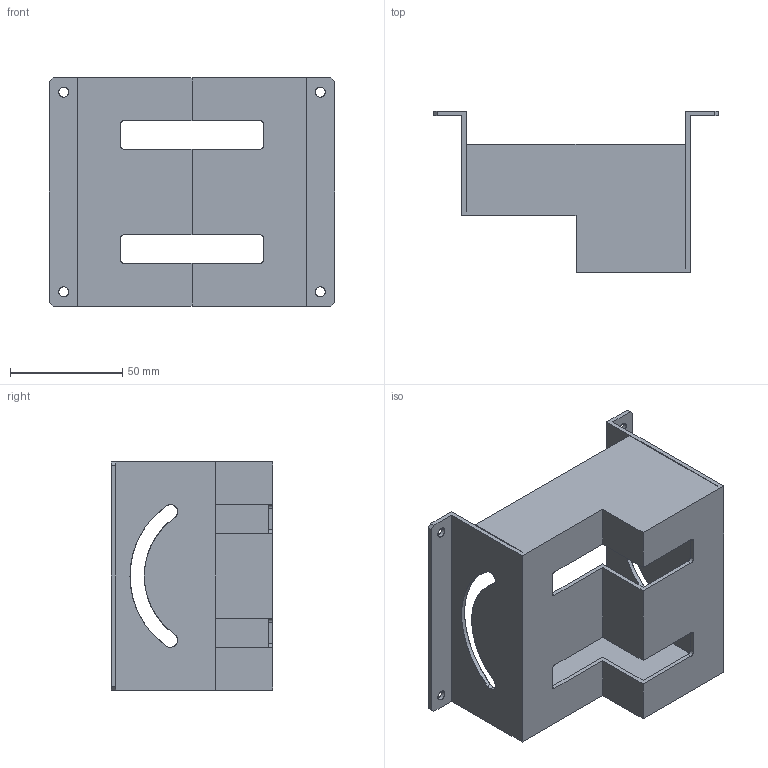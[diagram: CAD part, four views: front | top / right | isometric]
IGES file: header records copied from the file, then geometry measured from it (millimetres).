
Start section: SolidWorks IGES FILE using analytic representation for surfaces
Global section: file name: C:\Documents and Settings\PT\Desktop\Sheet Metal Conversion.IGS; native system: SolidWorks 2004 by SolidWorks Corporation; preprocessor: Version 5.3; author: PT; date: 040517.103016; units: inch
Bounding box: 127 x 71.75 x 101.6 mm (x, y, z)
Surface area: 67164.6 mm2 (no closed solid volume)
Topology: 0 solids, 0 shells, 68 faces, 1024 edges, 1024 vertices
Faces by surface type: bspline 42, revolution 26
